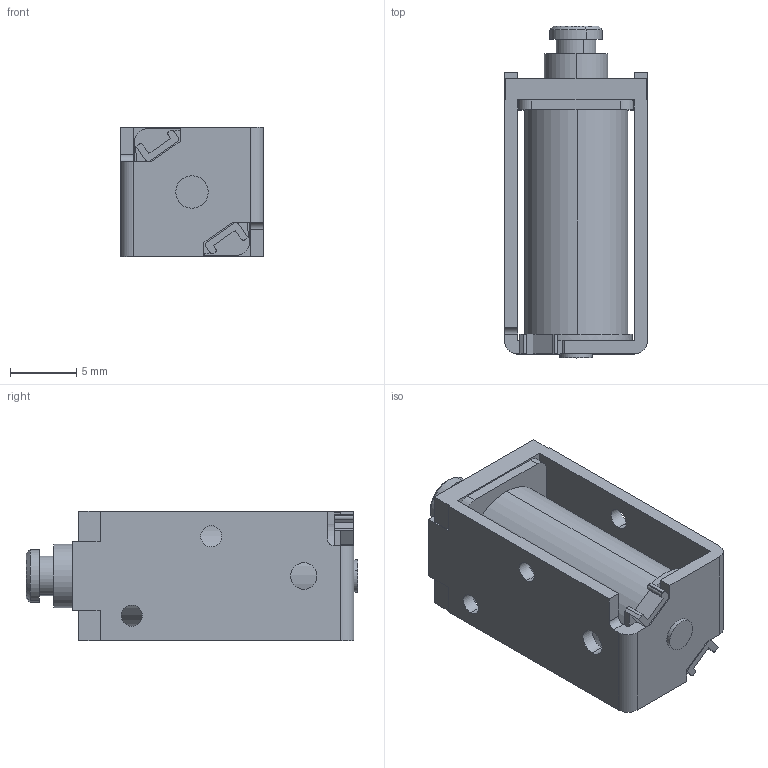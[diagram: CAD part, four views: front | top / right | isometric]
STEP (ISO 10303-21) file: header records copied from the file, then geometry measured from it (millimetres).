
FILE_DESCRIPTION (( 'STEP AP203' ), '1' );
FILE_NAME ('w_ca0422.STEP', '2014-07-07T02:12:28', ( 'jiba' ), ( 'Hewlett-Packard Company' ), 'SwSTEP 2.0', 'SolidWorks 2014', '' );
FILE_SCHEMA (( 'CONFIG_CONTROL_DESIGN' ));
Length unit declared in the file: millimetre
Products named in the file (5): Part2^w_ca0422; w_20422032; Part1^w_ca0422; w_ca0422_pl; w_ca0422
Assembly tree (3 placements, depth 3):
  Part2^w_ca0422
  w_ca0422
    Part1^w_ca0422
    w_ca0422_pl
      w_20422032
Bounding box: 10.8 x 25.1 x 9.8 mm (x, y, z)
Volume: 1533.4 mm3; surface area: 2332.9 mm2
Topology: 2 solids, 2 shells, 134 faces, 364 edges, 240 vertices
Faces by surface type: plane 76, cylinder 56, cone 2
Entity records: 4764 total; most frequent: DIRECTION 762, CARTESIAN_POINT 745, ORIENTED_EDGE 728, EDGE_CURVE 364, AXIS2_PLACEMENT_3D 257, VECTOR 248, LINE 248, VERTEX_POINT 240
